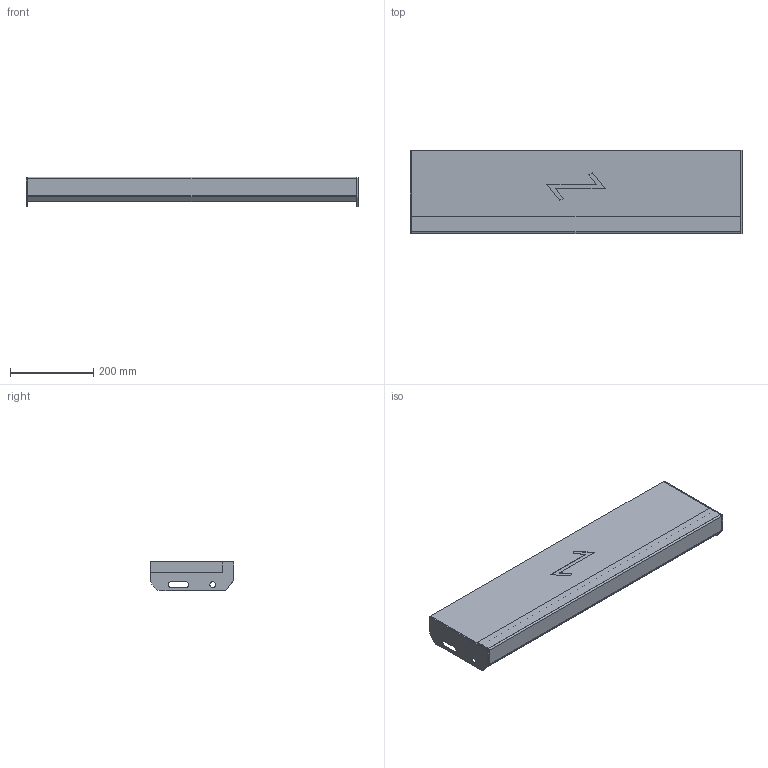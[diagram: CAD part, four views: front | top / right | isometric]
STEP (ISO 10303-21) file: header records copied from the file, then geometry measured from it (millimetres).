
FILE_DESCRIPTION (( 'STEP AP203' ), '1' );
FILE_NAME ('StegTH6-S-nya_steget-800x200.STEP', '2020-03-04T07:42:53', ( '' ), ( '' ), 'SwSTEP 2.0', 'SolidWorks 2019', '' );
FILE_SCHEMA (( 'CONFIG_CONTROL_DESIGN' ));
Length unit declared in the file: millimetre
Products named in the file (5): SW0000039487; StegTH6-S-nya_steget-800x200; SW0000039244; SW0000038780; SW0000038700
Assembly tree (5 placements, depth 3):
  StegTH6-S-nya_steget-800x200
    SW0000039487
      SW0000038780
      SW0000039244
      SW0000038700  x2
Bounding box: 800 x 200 x 72 mm (x, y, z)
Volume: 3684102 mm3; surface area: 539370.4 mm2
Topology: 4 solids, 4 shells, 67 faces, 158 edges, 100 vertices
Faces by surface type: plane 51, cylinder 16
Entity records: 2002 total; most frequent: DIRECTION 261, CARTESIAN_POINT 254, ORIENTED_EDGE 238, EDGE_CURVE 119, VECTOR 99, LINE 99, AXIS2_PLACEMENT_3D 81, VERTEX_POINT 74
